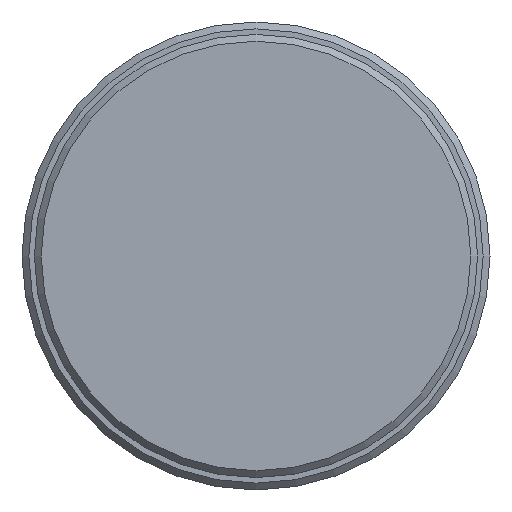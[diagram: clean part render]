
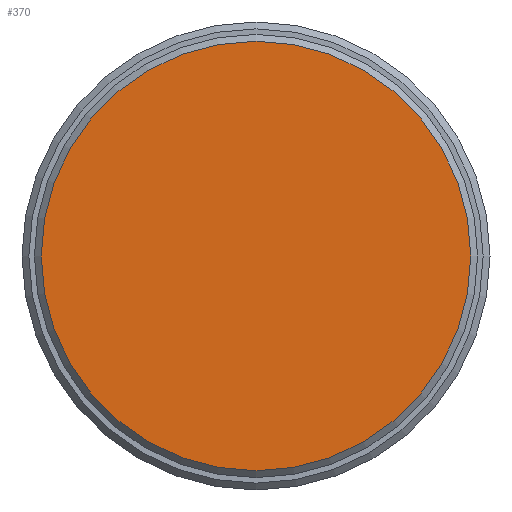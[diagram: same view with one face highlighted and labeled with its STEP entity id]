
A CAD part, front view. The second image highlights one B-rep face of the part: STEP entity #370.
In plain terms, the highlighted planar face has unit normal (0, -1, 0).
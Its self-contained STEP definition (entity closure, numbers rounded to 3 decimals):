
#354=CARTESIAN_POINT('',(15.6,-54.,0.));
#355=VERTEX_POINT('',#354);
#356=CARTESIAN_POINT('',(0.,-54.,0.));
#357=DIRECTION('',(0.,-1.,0.));
#358=DIRECTION('',(1.,0.,0.));
#359=AXIS2_PLACEMENT_3D('',#356,#357,#358);
#360=CIRCLE('',#359,15.6);
#361=EDGE_CURVE('',#355,#355,#360,.T.);
#362=ORIENTED_EDGE('',*,*,#361,.T.);
#363=EDGE_LOOP('',(#362));
#364=FACE_OUTER_BOUND('',#363,.T.);
#365=CARTESIAN_POINT('',(7.8,-54.,0.));
#366=DIRECTION('',(0.,-1.,0.));
#367=DIRECTION('',(1.,0.,0.));
#368=AXIS2_PLACEMENT_3D('',#365,#366,#367);
#369=PLANE('',#368);
#370=ADVANCED_FACE('',(#364),#369,.T.);
